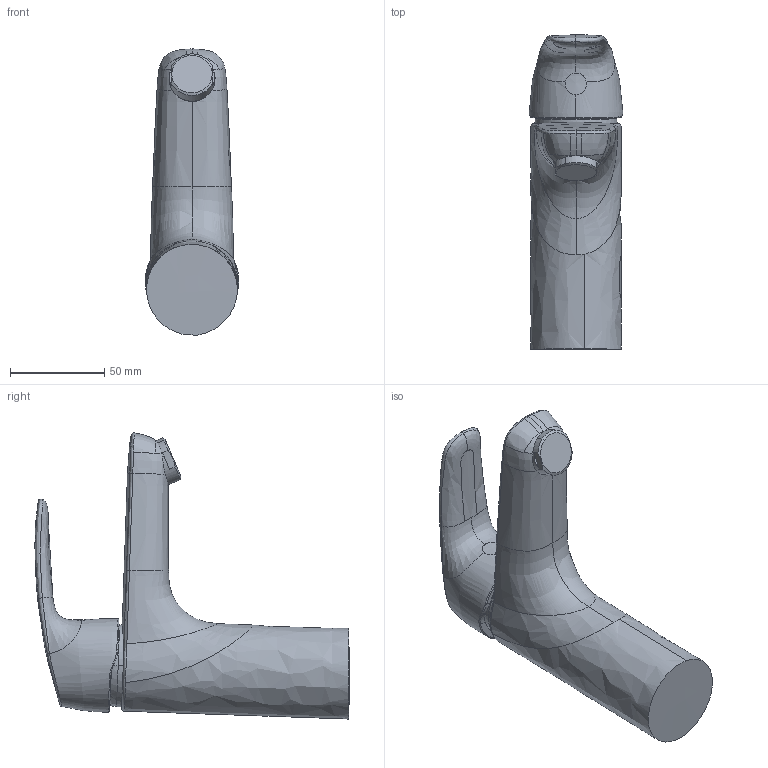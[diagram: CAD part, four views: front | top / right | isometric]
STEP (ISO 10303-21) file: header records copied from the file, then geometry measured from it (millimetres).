
FILE_DESCRIPTION (( 'STEP AP203' ), '1' );
FILE_NAME ('1011FZ(2023).STEP', '2023-02-06T07:57:04', ( '' ), ( '' ), 'SwSTEP 2.0', 'SolidWorks 2016', '' );
FILE_SCHEMA (( 'CONFIG_CONTROL_DESIGN' ));
Length unit declared in the file: millimetre
Products named in the file (1): 1011FZ(2023)
Bounding box: 49.68 x 166.98 x 152.05 mm (x, y, z)
Volume: 383065.4 mm3; surface area: 43317.2 mm2
Topology: 1 solids, 1 shells, 115 faces, 292 edges, 183 vertices
Faces by surface type: bspline 73, plane 21, cylinder 17, cone 2, sphere 2
Entity records: 24029 total; most frequent: CARTESIAN_POINT 21832, ORIENTED_EDGE 584, EDGE_CURVE 292, B_SPLINE_CURVE_WITH_KNOTS 205, DIRECTION 199, VERTEX_POINT 183, EDGE_LOOP 119, ADVANCED_FACE 115
